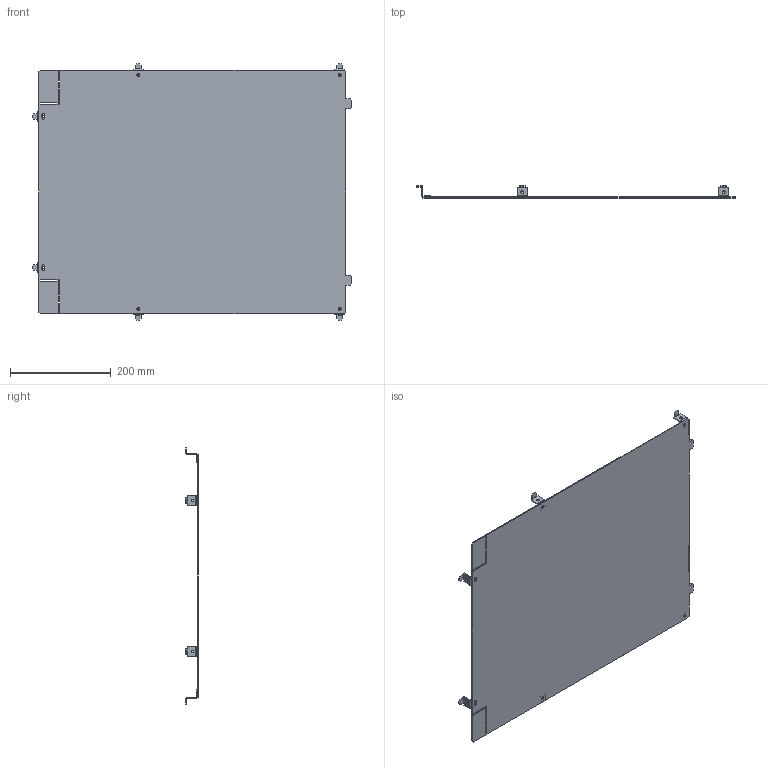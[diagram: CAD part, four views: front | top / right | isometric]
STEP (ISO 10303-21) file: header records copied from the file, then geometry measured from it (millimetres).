
FILE_DESCRIPTION(('CAx-IF Rec.Pracs.---Model Styling and Organization---1.2---2011-12-15','CAx-IF Rec.Pracs.---Geometric and Assembly Validation Properties---4.1---2014-06-16','CAx-IF Rec.Pracs.---PMI Polyline Presentation---2.0---2013-05-24'),'2;1');
FILE_NAME('R5SWC66.stp','2021-05-06T03:08:04+03:00',(''),(''),'STEP Interface 4.4 by CT CoreTechnologie','3D_Evolution4.4 by CT CoreTechnologie','');
FILE_SCHEMA(('AUTOMOTIVE_DESIGN { 1 0 10303 214 1 1 1 1 }'));
Length unit declared in the file: millimetre
Products named in the file (3): R5SWC66; RB.0520.00.00.0; RB.0542.00.00.0_-04
Assembly tree (7 placements, depth 2):
  R5SWC66
    RB.0520.00.00.0  x6
    RB.0542.00.00.0_-04
Bounding box: 634.5 x 24 x 509 mm (x, y, z)
Surface area: 605464.6 mm2 (no closed solid volume)
Topology: 0 solids, 7 shells, 220 faces, 666 edges, 460 vertices
Faces by surface type: plane 158, cylinder 62
Entity records: 3272 total; most frequent: CARTESIAN_POINT 544, ORIENTED_EDGE 532, DIRECTION 506, EDGE_CURVE 266, VECTOR 222, LINE 222, VERTEX_POINT 180, AXIS2_PLACEMENT_3D 142
